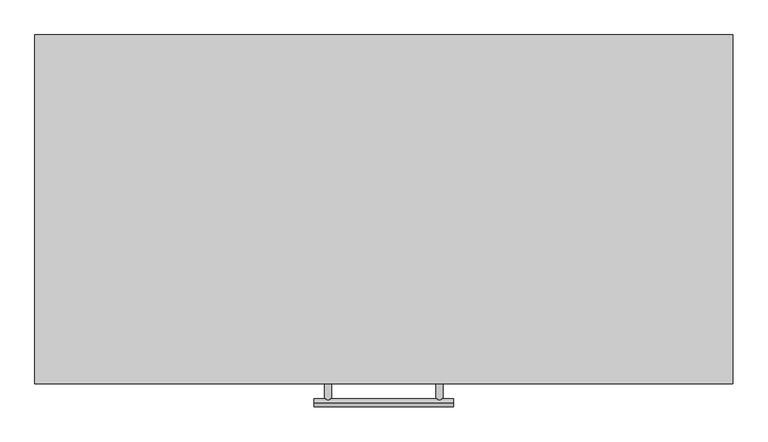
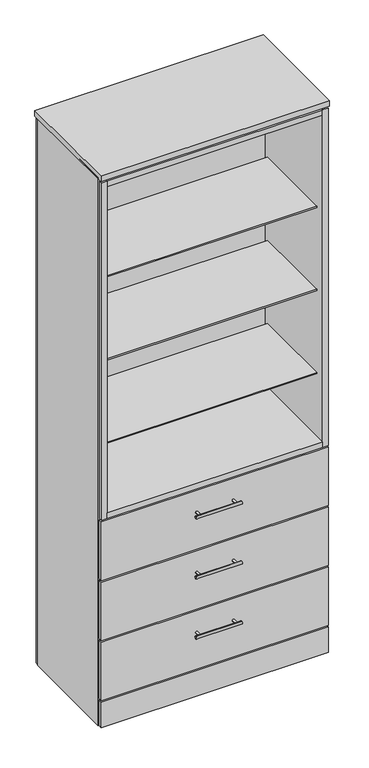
"""IFC4 building model written with IfcOpenShell, lengths in millimetres: furniture geometry, Furniture_Storage_Spacestor_SignatureStoragewall : Drawers & Display Module."""

from ifc_helpers import new_model, si_unit, point, frame, frame_2d, origin, origin_with_axes, place, context, project, spatial, polyline, circle_curve, trimmed, segment, composite_curve, outline, extrude, source, transform, mapped, element, save


def furniture_90a64089(model_context):
    return source(origin(), model_context, "Body", "SweptSolid", [
        extrude(outline(polyline([(996.5, 459.0), (3.5, 459.0), (3.5, 477.0), (996.5, 477.0), (996.5, 459.0)])), origin_with_axes(), (0.0, 0.0, 1.0), 2518.0),
        extrude(outline(polyline([(996.5, -18.0), (3.5, -18.0), (3.5, 0.0), (996.5, 0.0), (996.5, -18.0)])), origin_with_axes(), (0.0, 0.0, 1.0), 118.0),
        extrude(outline(polyline([(1000.0, -20.5), (0.0, -20.5), (0.0, 479.5), (1000.0, 479.5), (1000.0, -20.5)])), frame((0.0, 0.0, 2525.0), z_axis=(0.0, 0.0, 1.0), x_axis=(1.0, 0.0, 0.0)), (0.0, 0.0, 1.0), 25.5),
        extrude(outline(polyline([(1000.0, 0.0), (989.0, 0.0), (989.0, 459.0), (1000.0, 459.0), (1000.0, 0.0)])), origin_with_axes(), (0.0, 0.0, 1.0), 2532.5),
        extrude(outline(polyline([(11.0, 0.0), (0.0, 0.0), (0.0, 459.0), (11.0, 459.0), (11.0, 0.0)])), origin_with_axes(), (0.0, 0.0, 1.0), 2532.5),
        extrude(outline(polyline([(970.5, 25.0), (29.5, 25.0), (29.5, 398.0), (970.5, 398.0), (970.5, 25.0)])), frame((0.0, 0.0, 2039.0), z_axis=(0.0, 0.0, 1.0), x_axis=(1.0, 0.0, 0.0)), (0.0, 0.0, 1.0), 6.0),
        extrude(outline(polyline([(970.5, 25.0), (29.5, 25.0), (29.5, 398.0), (970.5, 398.0), (970.5, 25.0)])), frame((0.0, 0.0, 1655.0), z_axis=(0.0, 0.0, 1.0), x_axis=(1.0, 0.0, 0.0)), (0.0, 0.0, 1.0), 6.0),
        extrude(outline(polyline([(970.5, 25.0), (29.5, 25.0), (29.5, 398.0), (970.5, 398.0), (970.5, 25.0)])), frame((0.0, 0.0, 1271.0), z_axis=(0.0, 0.0, 1.0), x_axis=(1.0, 0.0, 0.0)), (0.0, 0.0, 1.0), 6.0),
        extrude(outline(polyline([(989.0, 0.0), (11.0, 0.0), (11.0, 459.0), (989.0, 459.0), (989.0, 0.0)])), frame((0.0, 0.0, 110.5), z_axis=(0.0, 0.0, 1.0), x_axis=(1.0, 0.0, 0.0)), (0.0, 0.0, 1.0), 22.0),
        extrude(outline(polyline([(989.0, 0.0), (11.0, 0.0), (11.0, 459.0), (989.0, 459.0), (989.0, 0.0)])), frame((0.0, 0.0, 2510.0), z_axis=(0.0, 0.0, 1.0), x_axis=(1.0, 0.0, 0.0)), (0.0, 0.0, 1.0), 22.0),
        extrude(outline(polyline([(989.0, 0.0), (11.0, 0.0), (11.0, 459.0), (989.0, 459.0), (989.0, 0.0)])), frame((0.0, 0.0, 942.5), z_axis=(0.0, 0.0, 1.0), x_axis=(1.0, 0.0, 0.0)), (0.0, 0.0, 1.0), 22.0),
        extrude(outline(polyline([(970.5, -18.0), (29.5, -18.0), (29.5, 416.0), (970.5, 416.0), (970.5, -18.0)])), frame((0.0, 0.0, 957.5), z_axis=(0.0, 0.0, 1.0), x_axis=(1.0, 0.0, 0.0)), (0.0, 0.0, 1.0), 25.0),
        extrude(outline(polyline([(29.5, -18.0), (4.5, -18.0), (4.5, 416.0), (29.5, 416.0), (29.5, -18.0)])), frame((0.0, 0.0, 957.0), z_axis=(0.0, 0.0, 1.0), x_axis=(1.0, 0.0, 0.0)), (0.0, 0.0, 1.0), 1559.0),
        extrude(outline(polyline([(995.5, -18.0), (970.5, -18.0), (970.5, 416.0), (995.5, 416.0), (995.5, -18.0)])), frame((0.0, 0.0, 957.0), z_axis=(0.0, 0.0, 1.0), x_axis=(1.0, 0.0, 0.0)), (0.0, 0.0, 1.0), 1559.0),
        extrude(outline(polyline([(995.5, 416.0), (4.5, 416.0), (4.5, 434.0), (995.5, 434.0), (995.5, 416.0)])), frame((0.0, 0.0, 957.0), z_axis=(0.0, 0.0, 1.0), x_axis=(1.0, 0.0, 0.0)), (0.0, 0.0, 1.0), 1559.0),
        extrude(outline(polyline([(970.5, -18.0), (29.5, -18.0), (29.5, 416.0), (970.5, 416.0), (970.5, -18.0)])), frame((0.0, 0.0, 2490.5), z_axis=(0.0, 0.0, 1.0), x_axis=(1.0, 0.0, 0.0)), (0.0, 0.0, 1.0), 25.0),
        extrude(outline(composite_curve([segment(trimmed(circle_curve(frame_2d((-47.0, 295.3333333)), 6.0), [point((-47.0, 301.3333333))], [point((-47.0, 289.3333333))], False, "CARTESIAN"), True, "CONTINUOUS"), segment(trimmed(circle_curve(frame_2d((-47.0, 295.3333333)), 6.0), [point((-47.0, 289.3333333))], [point((-47.0, 301.3333333))], False, "CARTESIAN"), True, "CONTINUOUS")], self_intersect=False)), frame((400.0, 0.0, 0.0), z_axis=(1.0, 0.0, 0.0), x_axis=(0.0, 1.0, 0.0)), (0.0, 0.0, 1.0), 200.0),
        extrude(outline(composite_curve([segment(trimmed(circle_curve(frame_2d((295.3333333, 580.0)), 5.0), [point((295.3333333, 585.0))], [point((295.3333333, 575.0))], False, "CARTESIAN"), True, "CONTINUOUS"), segment(trimmed(circle_curve(frame_2d((295.3333333, 580.0)), 5.0), [point((295.3333333, 575.0))], [point((295.3333333, 585.0))], False, "CARTESIAN"), True, "CONTINUOUS")], self_intersect=False)), frame((0.0, -47.0, 0.0), z_axis=(0.0, 1.0, 0.0), x_axis=(0.0, 0.0, 1.0)), (0.0, 0.0, 1.0), 29.0),
        extrude(outline(composite_curve([segment(trimmed(circle_curve(frame_2d((295.3333333, 420.0)), 5.0), [point((295.3333333, 415.0))], [point((295.3333333, 425.0))], False, "CARTESIAN"), True, "CONTINUOUS"), segment(trimmed(circle_curve(frame_2d((295.3333333, 420.0)), 5.0), [point((295.3333333, 425.0))], [point((295.3333333, 415.0))], False, "CARTESIAN"), True, "CONTINUOUS")], self_intersect=False)), frame((0.0, -47.0, 0.0), z_axis=(0.0, 1.0, 0.0), x_axis=(0.0, 0.0, 1.0)), (0.0, 0.0, 1.0), 29.0),
        extrude(outline(composite_curve([segment(trimmed(circle_curve(frame_2d((-47.0, 572.6666667)), 6.0), [point((-47.0, 578.6666667))], [point((-47.0, 566.6666667))], False, "CARTESIAN"), True, "CONTINUOUS"), segment(trimmed(circle_curve(frame_2d((-47.0, 572.6666667)), 6.0), [point((-47.0, 566.6666667))], [point((-47.0, 578.6666667))], False, "CARTESIAN"), True, "CONTINUOUS")], self_intersect=False)), frame((400.0, 0.0, 0.0), z_axis=(1.0, 0.0, 0.0), x_axis=(0.0, 1.0, 0.0)), (0.0, 0.0, 1.0), 200.0),
        extrude(outline(composite_curve([segment(trimmed(circle_curve(frame_2d((572.6666667, 580.0)), 5.0), [point((572.6666667, 585.0))], [point((572.6666667, 575.0))], False, "CARTESIAN"), True, "CONTINUOUS"), segment(trimmed(circle_curve(frame_2d((572.6666667, 580.0)), 5.0), [point((572.6666667, 575.0))], [point((572.6666667, 585.0))], False, "CARTESIAN"), True, "CONTINUOUS")], self_intersect=False)), frame((0.0, -47.0, 0.0), z_axis=(0.0, 1.0, 0.0), x_axis=(0.0, 0.0, 1.0)), (0.0, 0.0, 1.0), 29.0),
        extrude(outline(composite_curve([segment(trimmed(circle_curve(frame_2d((572.6666667, 420.0)), 5.0), [point((572.6666667, 415.0))], [point((572.6666667, 425.0))], False, "CARTESIAN"), True, "CONTINUOUS"), segment(trimmed(circle_curve(frame_2d((572.6666667, 420.0)), 5.0), [point((572.6666667, 425.0))], [point((572.6666667, 415.0))], False, "CARTESIAN"), True, "CONTINUOUS")], self_intersect=False)), frame((0.0, -47.0, 0.0), z_axis=(0.0, 1.0, 0.0), x_axis=(0.0, 0.0, 1.0)), (0.0, 0.0, 1.0), 29.0),
        extrude(outline(composite_curve([segment(trimmed(circle_curve(frame_2d((-47.0, 850.0)), 6.0), [point((-47.0, 856.0))], [point((-47.0, 844.0))], False, "CARTESIAN"), True, "CONTINUOUS"), segment(trimmed(circle_curve(frame_2d((-47.0, 850.0)), 6.0), [point((-47.0, 844.0))], [point((-47.0, 856.0))], False, "CARTESIAN"), True, "CONTINUOUS")], self_intersect=False)), frame((400.0, 0.0, 0.0), z_axis=(1.0, 0.0, 0.0), x_axis=(0.0, 1.0, 0.0)), (0.0, 0.0, 1.0), 200.0),
        extrude(outline(composite_curve([segment(trimmed(circle_curve(frame_2d((850.0, 580.0)), 5.0), [point((850.0, 585.0))], [point((850.0, 575.0))], False, "CARTESIAN"), True, "CONTINUOUS"), segment(trimmed(circle_curve(frame_2d((850.0, 580.0)), 5.0), [point((850.0, 575.0))], [point((850.0, 585.0))], False, "CARTESIAN"), True, "CONTINUOUS")], self_intersect=False)), frame((0.0, -47.0, 0.0), z_axis=(0.0, 1.0, 0.0), x_axis=(0.0, 0.0, 1.0)), (0.0, 0.0, 1.0), 29.0),
        extrude(outline(composite_curve([segment(trimmed(circle_curve(frame_2d((850.0, 420.0)), 5.0), [point((850.0, 415.0))], [point((850.0, 425.0))], False, "CARTESIAN"), True, "CONTINUOUS"), segment(trimmed(circle_curve(frame_2d((850.0, 420.0)), 5.0), [point((850.0, 425.0))], [point((850.0, 415.0))], False, "CARTESIAN"), True, "CONTINUOUS")], self_intersect=False)), frame((0.0, -47.0, 0.0), z_axis=(0.0, 1.0, 0.0), x_axis=(0.0, 0.0, 1.0)), (0.0, 0.0, 1.0), 29.0),
        extrude(outline(polyline([(996.5, -18.0), (3.5, -18.0), (3.5, 0.0), (996.5, 0.0), (996.5, -18.0)])), frame((0.0, 0.0, 679.6666667), z_axis=(0.0, 0.0, 1.0), x_axis=(1.0, 0.0, 0.0)), (0.0, 0.0, 1.0), 270.3333333),
        extrude(outline(polyline([(996.5, -18.0), (3.5, -18.0), (3.5, 0.0), (996.5, 0.0), (996.5, -18.0)])), frame((0.0, 0.0, 402.3333333), z_axis=(0.0, 0.0, 1.0), x_axis=(1.0, 0.0, 0.0)), (0.0, 0.0, 1.0), 270.3333333),
        extrude(outline(polyline([(996.5, -18.0), (3.5, -18.0), (3.5, 0.0), (996.5, 0.0), (996.5, -18.0)])), frame((0.0, 0.0, 125.0), z_axis=(0.0, 0.0, 1.0), x_axis=(1.0, 0.0, 0.0)), (0.0, 0.0, 1.0), 270.3333333),
    ])


if __name__ == "__main__":
    model = new_model("IFC4")
    model_context = context("Model", 3, world=origin())
    ifc_project = project(units=[si_unit("LENGTHUNIT", "METRE", prefix="MILLI")], contexts=[model_context])
    site = spatial("IfcSite", under=ifc_project)
    building = spatial("IfcBuilding", under=site)
    placement = place(None, origin())
    furniture_shape = furniture_90a64089(model_context)
    element("IfcFurniture", 1, ObjectType="Furniture_Storage_Spacestor_SignatureStoragewall : Drawers & Display Module", at=placement, inside=building, context=model_context, shape_type="MappedRepresentation", body=[
        mapped(furniture_shape, transform((0.0, 0.0, 0.0), x_axis=(1.0, 0.0, 0.0), y_axis=(0.0, 1.0, 0.0), z_axis=(0.0, 0.0, 1.0))),
    ])
    save(model, "model.ifc")
